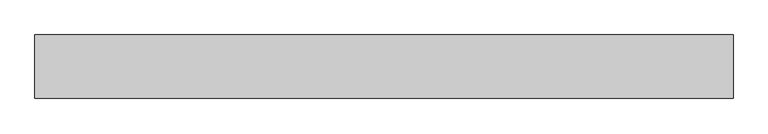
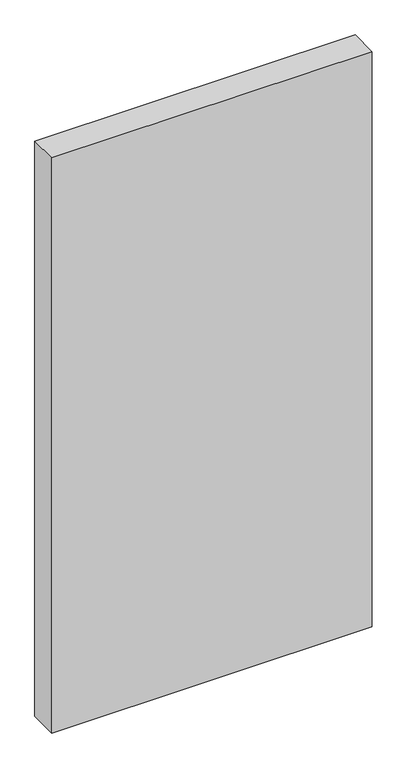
"""IFC4 building model written with IfcOpenShell, lengths in millimetres: proxy geometry."""

import ifcopenshell
import ifcopenshell.guid

model = None  # the IFC model being written
_history = None  # IfcOwnerHistory: only IFC2X3 demands one
_inside = {}  # id of a spatial element -> (the spatial element, [elements in it])
_under = {}  # id of a project, library or spatial element -> (it, [spatial elements below it])
_declared = {}  # id of a project -> (the project, [libraries it declares])
_typed = {}  # id of a type object -> (the type object, [elements of that type])
_made_of = {}  # id of a material, layer set ... -> (it, [elements and type objects made of it])


def new_model(schema):
    """Start an empty IFC model of exactly this schema.

    Asked for "IFC4X3", IfcOpenShell would pick the latest addendum, in which some entities
    have other attributes; the version numbers below select the first issue.
    IFC2X3 requires an IfcOwnerHistory on every rooted entity: one is made here for all.
    """
    global model, _history
    if schema == "IFC4X3":
        model = ifcopenshell.file(schema_version=(4, 3, 0, 0))
    else:
        model = ifcopenshell.file(schema=schema)
    _inside.clear()
    _under.clear()
    _declared.clear()
    _typed.clear()
    _made_of.clear()
    _history = None
    if model.schema == "IFC2X3":
        org = make("IfcOrganization", Name="unknown")
        user = make(
            "IfcPersonAndOrganization",
            ThePerson=make("IfcPerson", FamilyName="unknown"),
            TheOrganization=org,
        )
        app = make(
            "IfcApplication",
            ApplicationDeveloper=org,
            Version="unknown",
            ApplicationFullName="unknown",
            ApplicationIdentifier="unknown",
        )
        _history = make(
            "IfcOwnerHistory",
            OwningUser=user,
            OwningApplication=app,
            ChangeAction="ADDED",
            CreationDate=0,
        )
    return model


def make(cls, **values):
    """One entity of the class cls with the attributes given. An attribute that is None is left unset."""
    return model.create_entity(
        cls, **{name: value for name, value in values.items() if value is not None}
    )


def rooted(cls, **values):
    """An entity with a GlobalId (a new one), such as an element, a storey or a relation."""
    return make(cls, GlobalId=ifcopenshell.guid.new(), OwnerHistory=_history, **values)


def si_unit(unit_type, name, prefix=None):
    """IfcSIUnit, for example si_unit("LENGTHUNIT", "METRE", prefix="MILLI")."""
    return make("IfcSIUnit", UnitType=unit_type, Prefix=prefix, Name=name)


def assignment(units):
    """IfcUnitAssignment: the units of a project."""
    return None if units is None else make("IfcUnitAssignment", Units=units)


def point(xyz):
    """IfcCartesianPoint."""
    return None if xyz is None else make("IfcCartesianPoint", Coordinates=xyz)


def direction(xyz):
    """IfcDirection."""
    return None if xyz is None else make("IfcDirection", DirectionRatios=xyz)


def frame(location, z_axis=None, x_axis=None):
    """IfcAxis2Placement3D, a coordinate frame: its origin and axes. An axis left out is left unset."""
    return make(
        "IfcAxis2Placement3D",
        Location=point(location),
        Axis=direction(z_axis),
        RefDirection=direction(x_axis),
    )


def origin():
    """The frame at (0, 0, 0) with its axes left unset."""
    return frame((0.0, 0.0, 0.0))


def origin_with_axes():
    """The frame at (0, 0, 0) with the z axis (0, 0, 1) and the x axis (1, 0, 0) written out."""
    return frame((0.0, 0.0, 0.0), z_axis=(0.0, 0.0, 1.0), x_axis=(1.0, 0.0, 0.0))


def place(relative_to, where):
    """IfcLocalPlacement: puts the frame where relative to a parent placement (None: the world)."""
    return make(
        "IfcLocalPlacement", PlacementRelTo=relative_to, RelativePlacement=where
    )


def context(
    kind, dimensions, precision=None, world=None, true_north=None, identifier=None
):
    """IfcGeometricRepresentationContext, for example the 3D "Model" context."""
    return make(
        "IfcGeometricRepresentationContext",
        ContextIdentifier=identifier,
        ContextType=kind,
        CoordinateSpaceDimension=dimensions,
        Precision=precision,
        WorldCoordinateSystem=world,
        TrueNorth=true_north,
    )


def project(units=None, contexts=None):
    """IfcProject with its units and contexts."""
    return rooted(
        "IfcProject",
        Name="project",
        RepresentationContexts=contexts,
        UnitsInContext=assignment(units),
    )


def spatial(cls, under=None, at=None, **own):
    """A site, building, storey or space (cls), placed at a placement, below another one or the project."""
    s = rooted(cls, ObjectPlacement=at, **own)
    if under is not None:
        _under.setdefault(under.id(), (under, []))[1].append(s)
    return s


def polyline(points):
    """IfcPolyline through the points."""
    return make("IfcPolyline", Points=[point(p) for p in points])


def outline(outer, holes=None, kind="AREA"):
    """IfcArbitraryClosedProfileDef: a profile drawn as a closed curve; with holes, ...WithVoids."""
    if holes is None:
        return make("IfcArbitraryClosedProfileDef", ProfileType=kind, OuterCurve=outer)
    return make(
        "IfcArbitraryProfileDefWithVoids",
        ProfileType=kind,
        OuterCurve=outer,
        InnerCurves=holes,
    )


def extrude(swept, where, along, depth):
    """IfcExtrudedAreaSolid: the profile swept, set in the frame where, extruded along a direction by depth."""
    return make(
        "IfcExtrudedAreaSolid",
        SweptArea=swept,
        Position=where,
        ExtrudedDirection=direction(along),
        Depth=depth,
    )


def shape(context_of_items, identifier, shape_type, items):
    """IfcShapeRepresentation: the items that make up one representation, for example the "Body"."""
    return make(
        "IfcShapeRepresentation",
        ContextOfItems=context_of_items,
        RepresentationIdentifier=identifier,
        RepresentationType=shape_type,
        Items=items,
    )


def source(mapping_origin, context_of_items, identifier, shape_type, items):
    """IfcRepresentationMap: a shape defined once, which mapped items show again and again."""
    return make(
        "IfcRepresentationMap",
        MappingOrigin=mapping_origin,
        MappedRepresentation=shape(context_of_items, identifier, shape_type, items),
    )


def transform(
    local_origin,
    x_axis=None,
    y_axis=None,
    z_axis=None,
    scale=None,
    scale2=None,
    scale3=None,
    uniform=True,
):
    """IfcCartesianTransformationOperator3D, or its non-uniform kind. x_axis, y_axis, z_axis: its Axis1, 2, 3."""
    if uniform:
        return make(
            "IfcCartesianTransformationOperator3D",
            Axis1=direction(x_axis),
            Axis2=direction(y_axis),
            LocalOrigin=point(local_origin),
            Scale=scale,
            Axis3=direction(z_axis),
        )
    return make(
        "IfcCartesianTransformationOperator3DnonUniform",
        Axis1=direction(x_axis),
        Axis2=direction(y_axis),
        LocalOrigin=point(local_origin),
        Scale=scale,
        Axis3=direction(z_axis),
        Scale2=scale2,
        Scale3=scale3,
    )


def mapped(mapping_source, mapping_target):
    """IfcMappedItem: shows the shape of a source again, moved by a transform."""
    return make(
        "IfcMappedItem", MappingSource=mapping_source, MappingTarget=mapping_target
    )


def made_of(thing, what):
    """Note that an element or type object is made of a material, layer set ...; save() writes the relation."""
    if what is not None:
        _made_of.setdefault(what.id(), (what, []))[1].append(thing)
    return thing


def element(
    cls,
    number,
    at=None,
    inside=None,
    cuts=None,
    type_object=None,
    material=None,
    context=None,
    identifier="Body",
    shape_type=None,
    held_by="IfcProductDefinitionShape",
    body=None,
    shapes=None,
    **own,
):
    """One element of the class cls, such as IfcWall. Its Tag is "e" and its number.

    at: its placement. inside: the storey or other place that contains it. cuts: it is an
    opening in that element (IfcRelVoidsElement). A single representation is given by context,
    identifier, shape_type and body (its items); several are given by shapes. held_by: the class
    of the entity that holds the representations. save() writes the other relations.
    """
    e = rooted(cls, Tag="e%d" % number, ObjectPlacement=at, **own)
    if body is not None:
        shapes = [shape(context, identifier, shape_type, body)]
    if shapes is not None:
        e.Representation = make(held_by, Representations=shapes)
    if inside is not None:
        _inside.setdefault(inside.id(), (inside, []))[1].append(e)
    if cuts is not None:
        rooted(
            "IfcRelVoidsElement", RelatingBuildingElement=cuts, RelatedOpeningElement=e
        )
    if type_object is not None:
        _typed.setdefault(type_object.id(), (type_object, []))[1].append(e)
    return made_of(e, material)


def aggregate(whole, parts):
    """IfcRelAggregates: a whole, such as a stair, and the parts it consists of."""
    return rooted("IfcRelAggregates", RelatingObject=whole, RelatedObjects=parts)


def save(model, path):
    """Write the relations noted so far, then the file.

    IfcRelAggregates (storeys below a building ...), IfcRelContainedInSpatialStructure (elements
    in a storey), IfcRelDefinesByType, IfcRelAssociatesMaterial and IfcRelDeclares: one each for
    every whole, place, type object, material and project.
    """
    for whole, parts in _under.values():
        aggregate(whole, parts)
    for where, things in _inside.values():
        rooted(
            "IfcRelContainedInSpatialStructure",
            RelatedElements=things,
            RelatingStructure=where,
        )
    for kind, things in _typed.values():
        rooted("IfcRelDefinesByType", RelatedObjects=things, RelatingType=kind)
    for what, things in _made_of.values():
        rooted("IfcRelAssociatesMaterial", RelatedObjects=things, RelatingMaterial=what)
    for by, libraries in _declared.values():
        rooted("IfcRelDeclares", RelatingContext=by, RelatedDefinitions=libraries)
    model.write(path)


def generic_models_94c75a97(model_context):
    return source(origin(), model_context, "Body", "SweptSolid", [
        extrude(outline(polyline([(-83694.9987767, -300.0), (-83694.9987767, -150.0), (-82044.998776, -150.0), (-82044.998776, -300.0), (-83694.9987767, -300.0)])), origin_with_axes(), (0.0, 0.0, 1.0), 3130.0),
    ])


if __name__ == "__main__":
    model = new_model("IFC4")
    model_context = context("Model", 3, world=origin())
    ifc_project = project(units=[si_unit("LENGTHUNIT", "METRE", prefix="MILLI")], contexts=[model_context])
    site = spatial("IfcSite", under=ifc_project)
    building = spatial("IfcBuilding", under=site)
    placement = place(None, origin())
    generic_models_shape = generic_models_94c75a97(model_context)
    element("IfcBuildingElementProxy", 1, Name="Generic Models", at=placement, inside=building, context=model_context, shape_type="MappedRepresentation", body=[
        mapped(generic_models_shape, transform((0.0, 0.0, 0.0), x_axis=(1.0, 0.0, 0.0), y_axis=(0.0, 1.0, 0.0), z_axis=(0.0, 0.0, 1.0))),
    ])
    save(model, "model.ifc")
